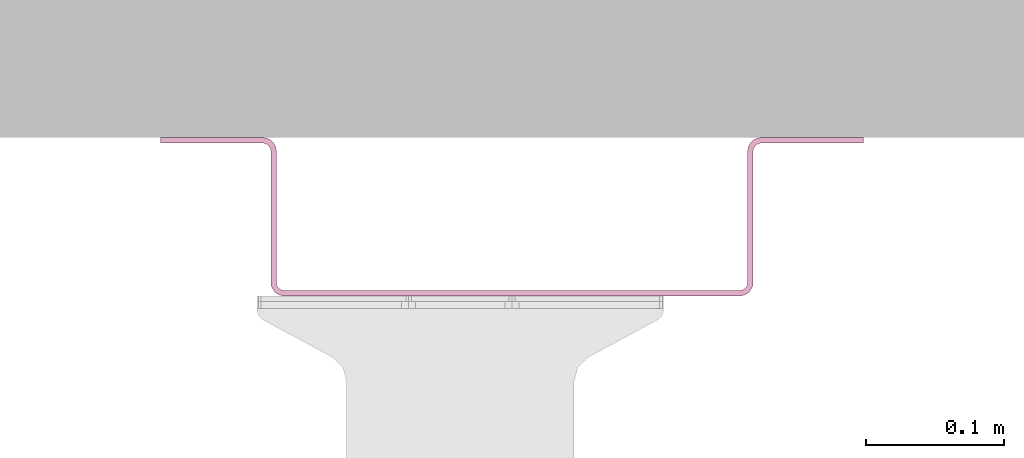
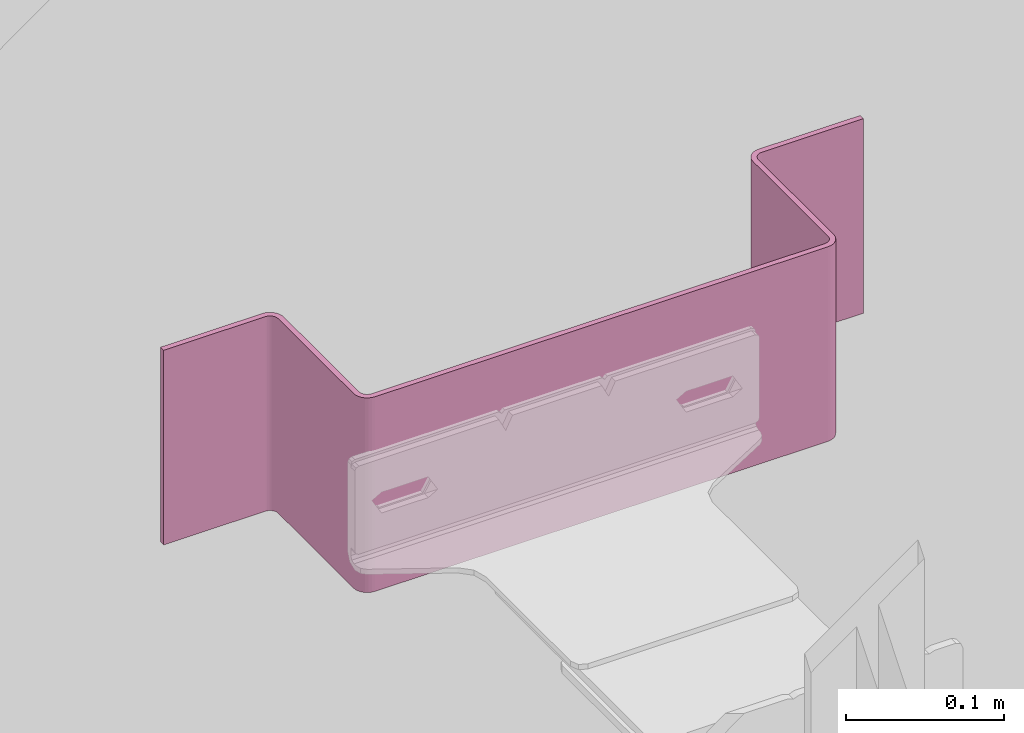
# One storey, part 13 of 14: 1 transport element.
"""IFC2X3 building model written with IfcOpenShell, lengths in millimetres."""

from ifc_helpers import new_model, entity, si_unit, converted_unit, derived_unit, direction, frame, frame_2d, origin, place, context, subcontext, project, spatial, polyline, circle_curve, parameter, trimmed, segment, composite_curve, outline, extrude, source, transform, mapped, material, type_object, type_shapes, element, save


model = new_model("IFC2X3")

# Units and contexts
model_context = context("Model", 3, precision=0.01, world=origin(), true_north=direction((6.12303176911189e-17, 1.0)))
body_context = subcontext(model_context, "Body", "Model", "MODEL_VIEW")
ifc_project = project(units=[si_unit("LENGTHUNIT", "METRE", prefix="MILLI"), si_unit("AREAUNIT", "SQUARE_METRE"), si_unit("VOLUMEUNIT", "CUBIC_METRE"), converted_unit("PLANEANGLEUNIT", "DEGREE", entity("IfcRatioMeasure", 0.0174532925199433), si_unit("PLANEANGLEUNIT", "RADIAN"), dimensions=[0, 0, 0, 0, 0, 0, 0]), si_unit("MASSUNIT", "GRAM", prefix="KILO"), derived_unit("MASSDENSITYUNIT", [(si_unit("MASSUNIT", "GRAM", prefix="KILO"), 1), (si_unit("LENGTHUNIT", "METRE"), -3)]), si_unit("TIMEUNIT", "SECOND"), si_unit("FREQUENCYUNIT", "HERTZ"), si_unit("THERMODYNAMICTEMPERATUREUNIT", "DEGREE_CELSIUS"), derived_unit("THERMALTRANSMITTANCEUNIT", [(si_unit("MASSUNIT", "GRAM", prefix="KILO"), 1), (si_unit("THERMODYNAMICTEMPERATUREUNIT", "KELVIN"), -1), (si_unit("TIMEUNIT", "SECOND"), -3)]), derived_unit("VOLUMETRICFLOWRATEUNIT", [(si_unit("LENGTHUNIT", "METRE"), 3), (si_unit("TIMEUNIT", "SECOND"), -1)]), si_unit("ELECTRICCURRENTUNIT", "AMPERE"), si_unit("ELECTRICVOLTAGEUNIT", "VOLT"), si_unit("POWERUNIT", "WATT"), si_unit("FORCEUNIT", "NEWTON", prefix="KILO"), si_unit("ILLUMINANCEUNIT", "LUX"), si_unit("LUMINOUSFLUXUNIT", "LUMEN"), si_unit("LUMINOUSINTENSITYUNIT", "CANDELA"), derived_unit("USERDEFINED", [(si_unit("MASSUNIT", "GRAM", prefix="KILO"), -1), (si_unit("LENGTHUNIT", "METRE"), -2), (si_unit("TIMEUNIT", "SECOND"), 3), (si_unit("LUMINOUSFLUXUNIT", "LUMEN"), 1)]), derived_unit("LINEARVELOCITYUNIT", [(si_unit("LENGTHUNIT", "METRE"), 1), (si_unit("TIMEUNIT", "SECOND"), -1)]), si_unit("PRESSUREUNIT", "PASCAL"), derived_unit("USERDEFINED", [(si_unit("LENGTHUNIT", "METRE"), -2), (si_unit("MASSUNIT", "GRAM", prefix="KILO"), 1), (si_unit("TIMEUNIT", "SECOND"), -2)])], contexts=[model_context])

# Site, building, storey, space
site_placement = place(None, frame((-151.875543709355, 2715.0, 0.0)))
site = spatial("IfcSite", under=ifc_project, at=site_placement, Name="Surface", CompositionType="ELEMENT")
building_placement = place(site_placement, origin())
building = spatial("IfcBuilding", under=site, at=building_placement, CompositionType="ELEMENT")
storey_placement = place(building_placement, frame((0.0, 0.0, 3875.0)))
storey = spatial("IfcBuildingStorey", under=building, at=storey_placement, Name="uus 2 korrus", CompositionType="ELEMENT", Elevation=3875.00000000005)
space_placement = place(storey_placement, origin())
space = spatial("IfcSpace", under=storey, at=space_placement, Name="226a", CompositionType="ELEMENT", InteriorOrExteriorSpace="INTERNAL")

# Transport element
ifc_material = material(Name="Generic")
transport_element_type = type_object("IfcTransportElementType", Name="KONE_Car_Bracket_Extension_KM755828G01_L115", material=ifc_material)
shared_shape = source(origin(), body_context, "Body", "SweptSolid", [
    extrude(outline(composite_curve([segment(polyline([(-42.4000000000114, 181.0), (-42.4000000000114, 255.0)]), True, "CONTINUOUS"), segment(polyline([(-42.4000000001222, 255.0), (-46.4000000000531, 255.0)]), True, "CONTINUOUS"), segment(polyline([(-46.3999999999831, 255.0), (-46.3999999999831, 181.0)]), True, "CONTINUOUS"), segment(trimmed(circle_curve(frame_2d((-36.3999999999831, 181.0), x_axis=(-1.0, 0.0)), 10.0), [parameter(0.0)], [parameter(90.0000000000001)], True, "PARAMETER"), True, "CONTINUOUS"), segment(polyline([(-36.3999999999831, 171.0), (58.5999999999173, 171.0)]), True, "CONTINUOUS"), segment(trimmed(circle_curve(frame_2d((58.5999999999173, 165.0), x_axis=(-1.0, 0.0)), 6.0), [parameter(180.0)], [parameter(269.999999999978)], True, "PARAMETER"), False, "CONTINUOUS"), segment(polyline([(64.5999999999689, 165.0), (64.599999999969, -165.0)]), True, "CONTINUOUS"), segment(trimmed(circle_curve(frame_2d((58.5999999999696, -165.0), x_axis=(0.0, 1.0)), 6.0), [parameter(180.0)], [parameter(270.000000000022)], True, "PARAMETER"), False, "CONTINUOUS"), segment(polyline([(58.5999999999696, -171.0), (-36.3999999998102, -171.0)]), True, "CONTINUOUS"), segment(trimmed(circle_curve(frame_2d((-36.3999999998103, -181.0), x_axis=(0.0, 1.0)), 10.0), [parameter(0.0)], [parameter(90.0000000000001)], True, "PARAMETER"), True, "CONTINUOUS"), segment(polyline([(-46.3999999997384, -181.0), (-46.3999999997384, -255.0)]), True, "CONTINUOUS"), segment(polyline([(-46.3999999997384, -255.0), (-42.3999999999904, -255.0)]), True, "CONTINUOUS"), segment(polyline([(-42.4000000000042, -255.0), (-42.4000000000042, -181.0)]), True, "CONTINUOUS"), segment(trimmed(circle_curve(frame_2d((-36.4000000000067, -181.0), x_axis=(0.0, -1.0)), 6.0), [parameter(180.0)], [parameter(270.0)], True, "PARAMETER"), False, "CONTINUOUS"), segment(polyline([(-36.4000000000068, -175.0), (58.5999999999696, -175.0)]), True, "CONTINUOUS"), segment(trimmed(circle_curve(frame_2d((58.5999999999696, -165.0), x_axis=(0.0, -1.0)), 10.0), [parameter(0.0)], [parameter(90.0000000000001)], True, "PARAMETER"), True, "CONTINUOUS"), segment(polyline([(68.5999999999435, -165.0), (68.5999999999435, 165.0)]), True, "CONTINUOUS"), segment(trimmed(circle_curve(frame_2d((58.5999999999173, 165.0), x_axis=(1.0, 0.0)), 10.0), [parameter(0.0)], [parameter(90.0000000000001)], True, "PARAMETER"), True, "CONTINUOUS"), segment(polyline([(58.5999999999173, 175.0), (-36.4000000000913, 175.0)]), True, "CONTINUOUS"), segment(trimmed(circle_curve(frame_2d((-36.4000000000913, 181.0), x_axis=(1.0, 0.0)), 6.0), [parameter(180.0)], [parameter(270.0)], True, "PARAMETER"), False, "CONTINUOUS")], self_intersect=False)), frame((148.391689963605, -34.4186219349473, -46.4000000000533), z_axis=(0.0, -1.0, 0.0), x_axis=(0.0, 0.0, -1.0)), (0.0, 0.0, -1.0), 150.0),
])
type_shapes(transport_element_type, [shared_shape])
transport_element_placement = place(space_placement, frame((30608.2260771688, 21740.0, 1879.58160046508), z_axis=(0.0, 1.0, 0.0), x_axis=(1.0, 0.0, 0.0)))
element("IfcTransportElement", 1, at=transport_element_placement, inside=space, type_object=transport_element_type, material=ifc_material, Name="KONE_Car_Bracket_Extension_KM755828G01_L115:KONE_Car_Bracket_Extension_KM755828G01_L115", ObjectType="KONE_Car_Bracket_Extension_KM755828G01_L115", CapacityByNumber=0.0, CapacityByWeight=0.0, OperationType="ELEVATOR", context=body_context, shape_type="MappedRepresentation", body=[
    mapped(shared_shape, transform((0.0, 0.0, 0.0), scale=1.0)),
])

save(model, "model.ifc")
